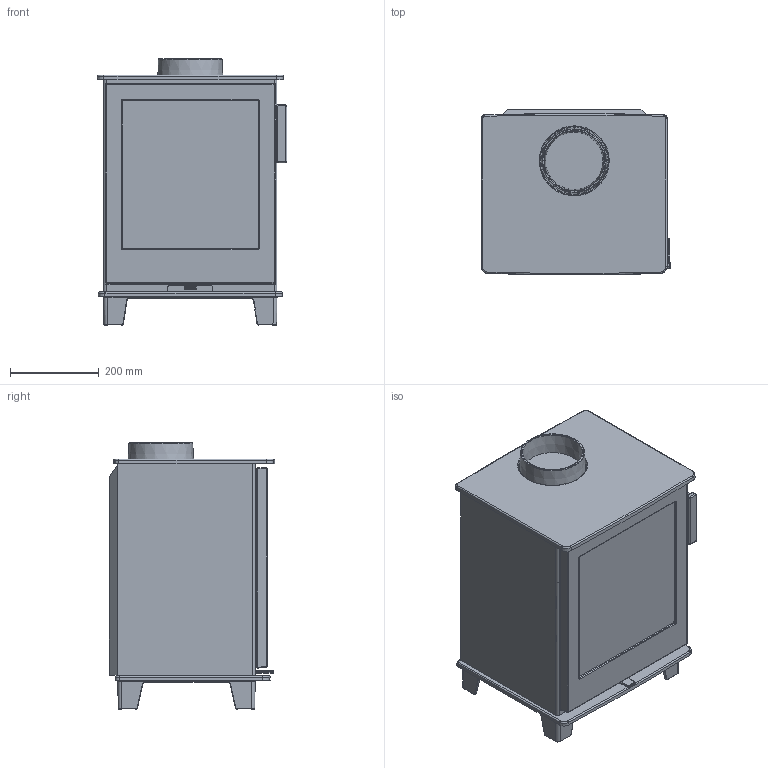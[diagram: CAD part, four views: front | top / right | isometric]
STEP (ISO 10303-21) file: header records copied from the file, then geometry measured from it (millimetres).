
FILE_DESCRIPTION(/* description */ ('Unknown'),/* implementation_level */ '2;1');
FILE_NAME(/* name */ 'C110',/* time_stamp */ '2024-09-30T13:33:50+02:00',/* author */ ('Unknown'),/* organization */ ('Unknown'),/* preprocessor_version */ 'ST-DEVELOPER v18.102',/* originating_system */ 'Solid Edge',/* authorisation */ 'Unknown');
FILE_SCHEMA (('AUTOMOTIVE_DESIGN {1 0 10303 214 3 1 1}'));
Length unit declared in the file: millimetre
Products named in the file (6): DSN1075823; DSN1075824; DSN1075829; DSN1075827; DSN1075838; DSN1075840
Assembly tree (5 placements, depth 2):
  DSN1075823
    DSN1075824
    DSN1075829
    DSN1075827
    DSN1075838
    DSN1075840
Bounding box: 429.05 x 374.62 x 601.5 mm (x, y, z)
Volume: 36954619.5 mm3; surface area: 3597258.5 mm2
Topology: 5 solids, 5 shells, 834 faces, 2056 edges, 1257 vertices
Faces by surface type: plane 363, cylinder 229, bspline 171, torus 33, sphere 26, cone 12
Full cylindrical faces by diameter (mm): 4.7 x2, 5.7 x7
Entity records: 30578 total; most frequent: CARTESIAN_POINT 10680, ORIENTED_EDGE 3984, DIRECTION 3756, EDGE_CURVE 1992, AXIS2_PLACEMENT_3D 1277, VERTEX_POINT 1247, LINE 1202, VECTOR 1202
